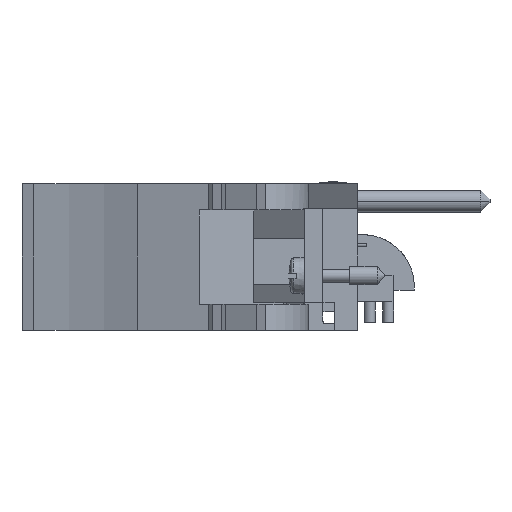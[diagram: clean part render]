
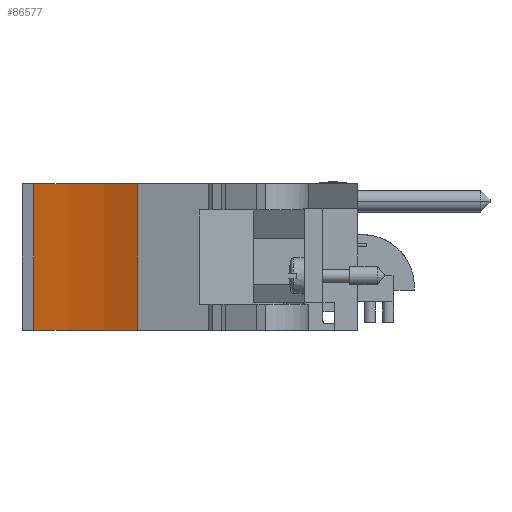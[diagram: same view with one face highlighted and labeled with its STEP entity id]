
A CAD part, front view. The second image highlights one B-rep face of the part: STEP entity #86577.
In plain terms, the highlighted cylindrical face has radius 51.46 mm (diameter 102.919 mm), a partial arc.
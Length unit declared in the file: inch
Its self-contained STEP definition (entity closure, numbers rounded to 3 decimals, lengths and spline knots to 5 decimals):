
#80148=CARTESIAN_POINT('',(-5.43694,-2.33143,0.634));
#80149=DIRECTION('',(0.,0.,1.));
#80150=DIRECTION('',(0.435,0.9,0.));
#80151=AXIS2_PLACEMENT_3D('',#80148,#80149,#80150);
#80619=CARTESIAN_POINT('',(-5.43694,-2.33143,-0.154));
#80620=DIRECTION('',(0.,0.,1.));
#80621=DIRECTION('',(0.435,0.9,0.));
#80622=AXIS2_PLACEMENT_3D('',#80619,#80620,#80621);
#80837=DIRECTION('',(0.,0.,1.));
#80838=VECTOR('',#80837,0.788);
#80839=CARTESIAN_POINT('',(-5.11361,-0.33143,-0.154));
#80840=LINE('',#80839,#80838);
#80845=DIRECTION('',(0.,0.,1.));
#80846=VECTOR('',#80845,0.788);
#80847=CARTESIAN_POINT('',(-4.55564,-0.50719,-0.154));
#80848=LINE('',#80847,#80846);
#83139=CARTESIAN_POINT('',(-4.55564,-0.50719,-0.154));
#83140=CARTESIAN_POINT('',(-5.11361,-0.33143,-0.154));
#83141=VERTEX_POINT('',#83139);
#83142=VERTEX_POINT('',#83140);
#83143=CARTESIAN_POINT('',(-4.55564,-0.50719,0.634));
#83144=CARTESIAN_POINT('',(-5.11361,-0.33143,0.634));
#83145=VERTEX_POINT('',#83143);
#83146=VERTEX_POINT('',#83144);
#86565=CARTESIAN_POINT('',(-5.43694,-2.33143,0.634));
#86566=DIRECTION('',(0.,0.,1.));
#86567=DIRECTION('',(0.,1.,0.));
#86568=AXIS2_PLACEMENT_3D('',#86565,#86566,#86567);
#86569=CYLINDRICAL_SURFACE('',#86568,2.02597);
#86570=ORIENTED_EDGE('',*,*,#86283,.T.);
#86571=ORIENTED_EDGE('',*,*,#86557,.T.);
#86572=ORIENTED_EDGE('',*,*,#85718,.F.);
#86574=ORIENTED_EDGE('',*,*,#86573,.F.);
#86575=EDGE_LOOP('',(#86570,#86571,#86572,#86574));
#86576=FACE_OUTER_BOUND('',#86575,.F.);
#86577=ADVANCED_FACE('',(#86576),#86569,.F.);
#80152=CIRCLE('',#80151,2.02597);
#80623=CIRCLE('',#80622,2.02597);
#85718=EDGE_CURVE('',#83145,#83146,#80152,.T.);
#86283=EDGE_CURVE('',#83141,#83142,#80623,.T.);
#86557=EDGE_CURVE('',#83142,#83146,#80840,.T.);
#86573=EDGE_CURVE('',#83141,#83145,#80848,.T.);
